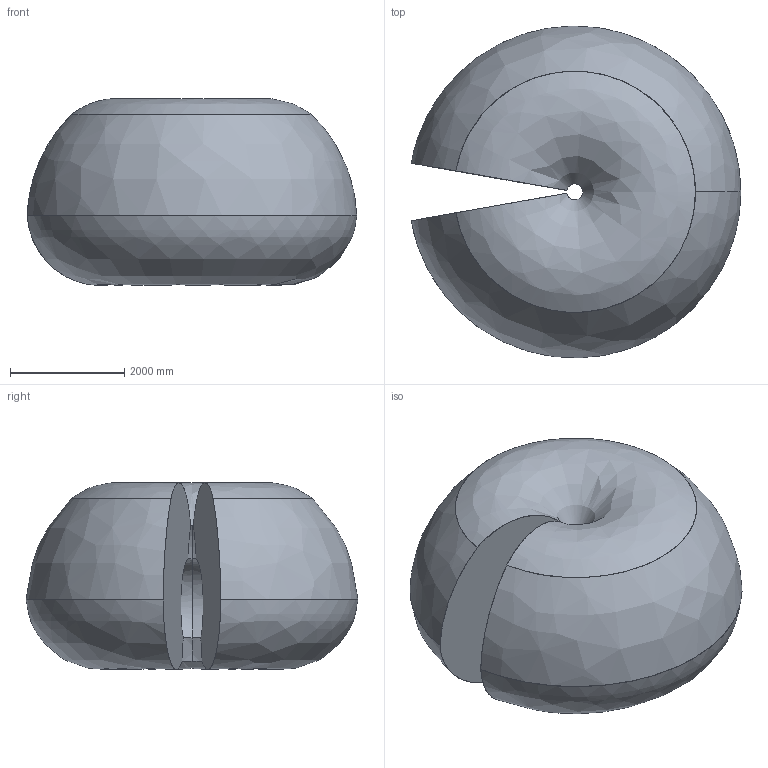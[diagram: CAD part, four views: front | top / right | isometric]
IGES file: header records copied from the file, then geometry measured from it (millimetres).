
Start section: SolidWorks IGES file using analytic representation for surfaces
Global section: file name: C:\Users\seamsto1\Desktop\77XX\Working space\IRB7720_All-290_OC_00_Working-space.IGS; native system: SolidWorks 2022; preprocessor: SolidWorks 2022; author: SEAMSTO1; date: 240219.214558; units: millimetre
Bounding box: 5761.94 x 5805.18 x 3264.86 mm (x, y, z)
Surface area: 103791603.9 mm2 (no closed solid volume)
Topology: 0 solids, 0 shells, 12 faces, 292 edges, 292 vertices
Faces by surface type: bspline 12
